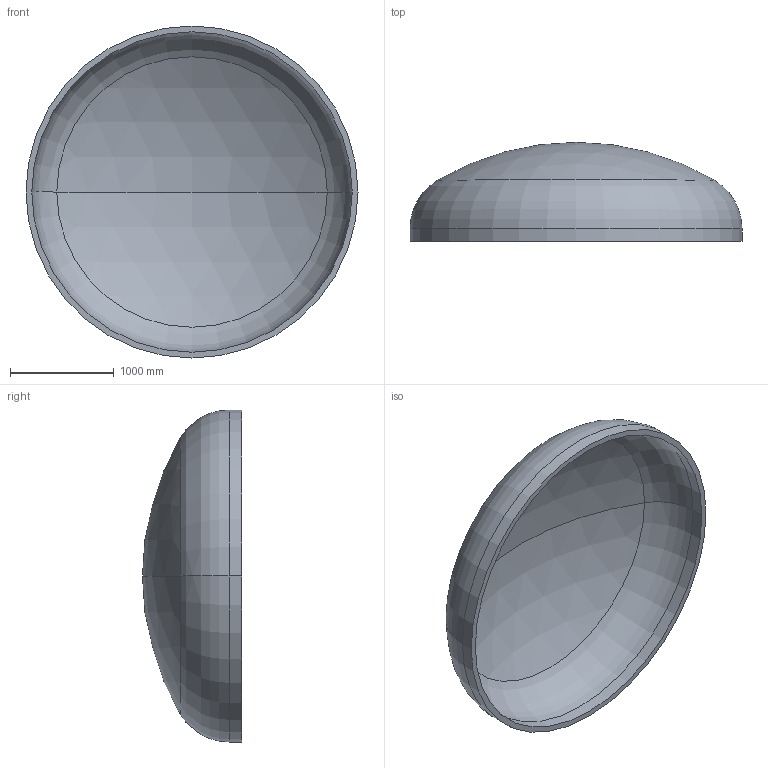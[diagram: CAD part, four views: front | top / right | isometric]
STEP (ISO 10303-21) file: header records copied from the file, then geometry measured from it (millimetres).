
FILE_DESCRIPTION (( 'STEP AP203' ), '1' );
FILE_NAME ('DIN 28013 Korbbogenform_-_Boden DIN 28013 - 3200 x 120 - I - s=56.step', '2016-07-01T18:44:31', ( '' ), ( '' ), 'SwSTEP 2.0', 'SolidWorks 2013', '' );
FILE_SCHEMA (( 'CONFIG_CONTROL_DESIGN' ));
Length unit declared in the file: millimetre
Products named in the file (1): DIN 28013 Korbbogenform_-_Boden DIN 28013 - 3200 x 120 - I - s=56
Bounding box: 3200 x 954.43 x 3200 mm (x, y, z)
Volume: 675227049 mm3; surface area: 24674932.7 mm2
Topology: 1 solids, 1 shells, 13 faces, 24 edges, 14 vertices
Faces by surface type: torus 4, cylinder 4, sphere 4, plane 1
Entity records: 407 total; most frequent: DIRECTION 72, CARTESIAN_POINT 52, ORIENTED_EDGE 48, AXIS2_PLACEMENT_3D 34, EDGE_CURVE 24, CIRCLE 20, VERTEX_POINT 14, EDGE_LOOP 14
